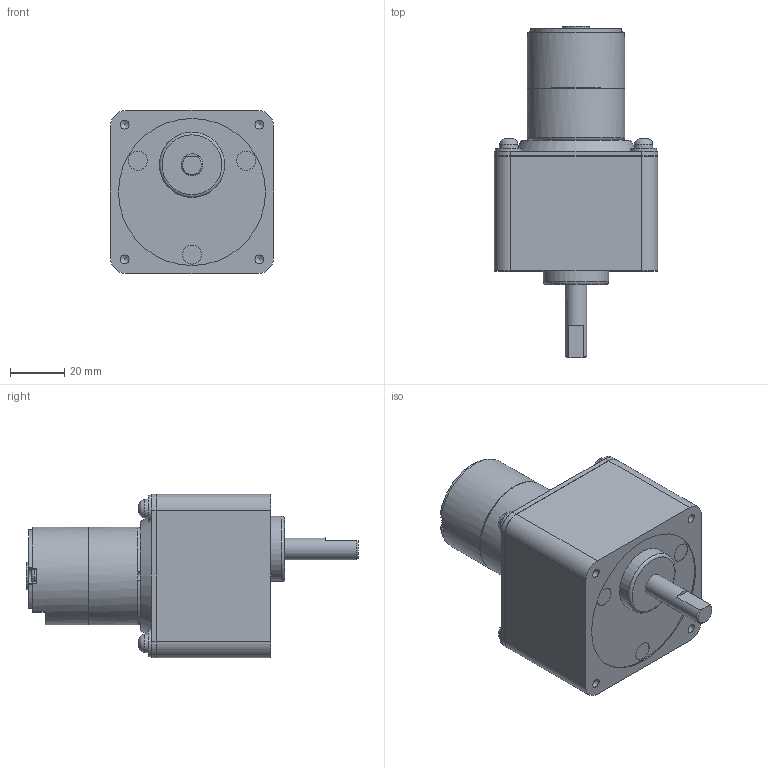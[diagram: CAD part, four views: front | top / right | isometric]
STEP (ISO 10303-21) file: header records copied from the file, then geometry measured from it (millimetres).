
FILE_DESCRIPTION((''),'2;1');
FILE_NAME('C:\Documents and Settings\SSEGAWA\デスクトップ\TP-3641A-CM-4.STP','2013-07-30T23:15:38',('SSEGAWA'),(''),'Autodesk Inventor 2010','Autodesk Inventor 2010','');
FILE_SCHEMA(('CONFIG_CONTROL_DESIGN'));
Length unit declared in the file: millimetre
Products named in the file (1): tp_3641abcde_cm_4_Shrinkwrap_1
Bounding box: 60 x 122 x 60 mm (x, y, z)
Volume: 205984.1 mm3; surface area: 24847 mm2
Topology: 1 solids, 8 shells, 212 faces, 497 edges, 327 vertices
Faces by surface type: plane 116, cylinder 53, bspline 37, torus 4, cone 2
Full cylindrical faces by diameter (mm): 2.5 x1, 5 x1, 6.8 x4, 7 x3, 8 x1, 9.8 x4, 10 x1, 24 x1, 35.6 x1, 36 x2, 54 x1
Entity records: 6348 total; most frequent: CARTESIAN_POINT 1702, DIRECTION 914, ORIENTED_EDGE 810, EDGE_CURVE 405, AXIS2_PLACEMENT_3D 339, EDGE_LOOP 297, VERTEX_POINT 294, VECTOR 236
